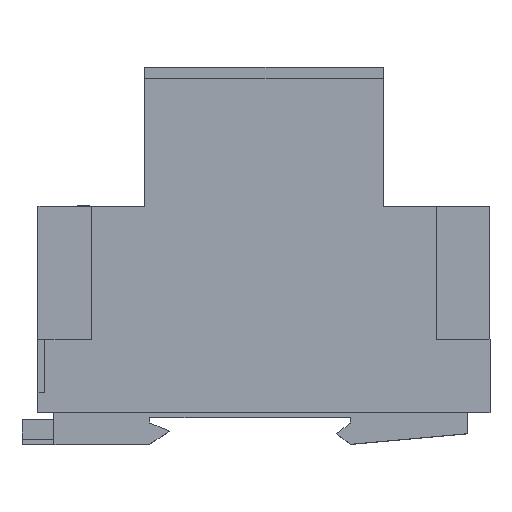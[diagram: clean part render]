
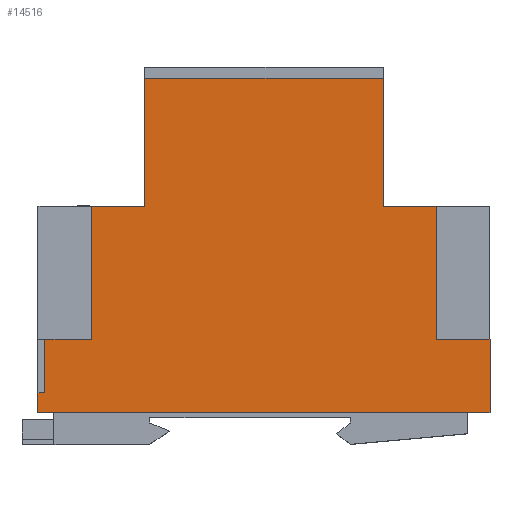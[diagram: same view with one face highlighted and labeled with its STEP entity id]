
A CAD part, top view. The second image highlights one B-rep face of the part: STEP entity #14516.
In plain terms, the highlighted planar face has unit normal (0, 0, 1).
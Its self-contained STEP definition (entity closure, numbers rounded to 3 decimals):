
#190 = LINE ( 'NONE', #1544, #5744 ) ;
#219 = LINE ( 'NONE', #12148, #1939 ) ;
#415 = EDGE_CURVE ( 'NONE', #4965, #15979, #2496, .T. ) ;
#464 = LINE ( 'NONE', #11138, #8203 ) ;
#804 = DIRECTION ( 'NONE',  ( 1., 0., 0. ) ) ;
#856 = VERTEX_POINT ( 'NONE', #16552 ) ;
#1458 = EDGE_CURVE ( 'NONE', #13468, #8299, #14471, .T. ) ;
#1467 = LINE ( 'NONE', #13619, #5327 ) ;
#1544 = CARTESIAN_POINT ( 'NONE',  ( -74.8, 0., 1.3 ) ) ;
#1939 = VECTOR ( 'NONE', #13704, 1000. ) ;
#1964 = CARTESIAN_POINT ( 'NONE',  ( 0., 0., 1.3 ) ) ;
#2017 = DIRECTION ( 'NONE',  ( 0., -1., 0. ) ) ;
#2154 = VECTOR ( 'NONE', #10862, 1000. ) ;
#2415 = ORIENTED_EDGE ( 'NONE', *, *, #9540, .F. ) ;
#2496 = LINE ( 'NONE', #8525, #14246 ) ;
#2747 = CARTESIAN_POINT ( 'NONE',  ( 0., 13.7, 1.3 ) ) ;
#2785 = CARTESIAN_POINT ( 'NONE',  ( -83.5, 3.7, 1.3 ) ) ;
#2803 = CARTESIAN_POINT ( 'NONE',  ( -20., 62.7, 1.3 ) ) ;
#2935 = DIRECTION ( 'NONE',  ( 0., -1., 0. ) ) ;
#3608 = ORIENTED_EDGE ( 'NONE', *, *, #9903, .F. ) ;
#3716 = VERTEX_POINT ( 'NONE', #13383 ) ;
#3814 = EDGE_CURVE ( 'NONE', #5274, #5211, #16812, .T. ) ;
#4029 = CARTESIAN_POINT ( 'NONE',  ( 0., 13.7, 1.3 ) ) ;
#4134 = ORIENTED_EDGE ( 'NONE', *, *, #5310, .F. ) ;
#4484 = ORIENTED_EDGE ( 'NONE', *, *, #10812, .F. ) ;
#4639 = VECTOR ( 'NONE', #15023, 1000. ) ;
#4965 = VERTEX_POINT ( 'NONE', #14617 ) ;
#4991 = VERTEX_POINT ( 'NONE', #5231 ) ;
#5124 = FACE_OUTER_BOUND ( 'NONE', #8074, .T. ) ;
#5211 = VERTEX_POINT ( 'NONE', #10495 ) ;
#5231 = CARTESIAN_POINT ( 'NONE',  ( -74.8, 13.7, 1.3 ) ) ;
#5274 = VERTEX_POINT ( 'NONE', #12182 ) ;
#5310 = EDGE_CURVE ( 'NONE', #11468, #4991, #10742, .T. ) ;
#5327 = VECTOR ( 'NONE', #9433, 1000. ) ;
#5328 = VERTEX_POINT ( 'NONE', #4029 ) ;
#5333 = ORIENTED_EDGE ( 'NONE', *, *, #17602, .F. ) ;
#5645 = LINE ( 'NONE', #1964, #11447 ) ;
#5713 = ORIENTED_EDGE ( 'NONE', *, *, #1458, .F. ) ;
#5744 = VECTOR ( 'NONE', #8260, 1000. ) ;
#6003 = CARTESIAN_POINT ( 'NONE',  ( 0., 0., 1.3 ) ) ;
#6211 = LINE ( 'NONE', #8846, #11165 ) ;
#6636 = VECTOR ( 'NONE', #9201, 1000. ) ;
#6776 = VECTOR ( 'NONE', #804, 1000. ) ;
#6852 = LINE ( 'NONE', #17420, #6636 ) ;
#7214 = VECTOR ( 'NONE', #10620, 1000. ) ;
#7438 = DIRECTION ( 'NONE',  ( 0., 1., 0. ) ) ;
#7564 = VERTEX_POINT ( 'NONE', #13826 ) ;
#7685 = ORIENTED_EDGE ( 'NONE', *, *, #8794, .F. ) ;
#8074 = EDGE_LOOP ( 'NONE', ( #10560, #14521, #9393, #4484, #2415, #10476, #3608, #5713, #5333, #11191, #11044, #7685, #4134, #13046 ) ) ;
#8203 = VECTOR ( 'NONE', #2935, 1000. ) ;
#8260 = DIRECTION ( 'NONE',  ( 0., 1., 0. ) ) ;
#8299 = VERTEX_POINT ( 'NONE', #9434 ) ;
#8525 = CARTESIAN_POINT ( 'NONE',  ( -64.8, 0., 1.3 ) ) ;
#8769 = DIRECTION ( 'NONE',  ( 0., 0., 1. ) ) ;
#8794 = EDGE_CURVE ( 'NONE', #4991, #856, #190, .T. ) ;
#8846 = CARTESIAN_POINT ( 'NONE',  ( 0., 38.7, 1.3 ) ) ;
#8908 = CARTESIAN_POINT ( 'NONE',  ( -64.8, 62.7, 1.3 ) ) ;
#9053 = VECTOR ( 'NONE', #17079, 1000. ) ;
#9121 = CARTESIAN_POINT ( 'NONE',  ( 0., 38.7, 1.3 ) ) ;
#9201 = DIRECTION ( 'NONE',  ( 0., 1., 0. ) ) ;
#9393 = ORIENTED_EDGE ( 'NONE', *, *, #13474, .F. ) ;
#9433 = DIRECTION ( 'NONE',  ( 1., 0., 0. ) ) ;
#9434 = CARTESIAN_POINT ( 'NONE',  ( -20., 38.7, 1.3 ) ) ;
#9540 = EDGE_CURVE ( 'NONE', #7564, #5328, #12367, .T. ) ;
#9903 = EDGE_CURVE ( 'NONE', #8299, #3716, #13829, .T. ) ;
#9919 = LINE ( 'NONE', #10230, #9053 ) ;
#10230 = CARTESIAN_POINT ( 'NONE',  ( -83.5, 3.7, 1.3 ) ) ;
#10476 = ORIENTED_EDGE ( 'NONE', *, *, #15323, .F. ) ;
#10495 = CARTESIAN_POINT ( 'NONE',  ( -84.8, 3.7, 1.3 ) ) ;
#10560 = ORIENTED_EDGE ( 'NONE', *, *, #3814, .T. ) ;
#10620 = DIRECTION ( 'NONE',  ( 0., -1., 0. ) ) ;
#10742 = LINE ( 'NONE', #17457, #2154 ) ;
#10812 = EDGE_CURVE ( 'NONE', #5328, #16497, #5645, .T. ) ;
#10862 = DIRECTION ( 'NONE',  ( 1., 0., 0. ) ) ;
#11044 = ORIENTED_EDGE ( 'NONE', *, *, #16805, .F. ) ;
#11138 = CARTESIAN_POINT ( 'NONE',  ( -10., 0., 1.3 ) ) ;
#11165 = VECTOR ( 'NONE', #14275, 1000. ) ;
#11191 = ORIENTED_EDGE ( 'NONE', *, *, #415, .F. ) ;
#11209 = EDGE_CURVE ( 'NONE', #5274, #11468, #9919, .T. ) ;
#11281 = DIRECTION ( 'NONE',  ( -1., 0., 0. ) ) ;
#11447 = VECTOR ( 'NONE', #2017, 1000. ) ;
#11468 = VERTEX_POINT ( 'NONE', #14145 ) ;
#11743 = CARTESIAN_POINT ( 'NONE',  ( -84.8, 0., 1.3 ) ) ;
#11749 = AXIS2_PLACEMENT_3D ( 'NONE', #6003, #8769, #12914 ) ;
#12148 = CARTESIAN_POINT ( 'NONE',  ( 0., 0., 1.3 ) ) ;
#12182 = CARTESIAN_POINT ( 'NONE',  ( -83.5, 3.7, 1.3 ) ) ;
#12367 = LINE ( 'NONE', #2747, #4639 ) ;
#12914 = DIRECTION ( 'NONE',  ( 1., 0., 0. ) ) ;
#13046 = ORIENTED_EDGE ( 'NONE', *, *, #11209, .F. ) ;
#13160 = VECTOR ( 'NONE', #11281, 1000. ) ;
#13383 = CARTESIAN_POINT ( 'NONE',  ( -10., 38.7, 1.3 ) ) ;
#13428 = CARTESIAN_POINT ( 'NONE',  ( -20., 0., 1.3 ) ) ;
#13468 = VERTEX_POINT ( 'NONE', #2803 ) ;
#13474 = EDGE_CURVE ( 'NONE', #16497, #15996, #219, .T. ) ;
#13619 = CARTESIAN_POINT ( 'NONE',  ( 0., 62.7, 1.3 ) ) ;
#13704 = DIRECTION ( 'NONE',  ( -1., 0., 0. ) ) ;
#13826 = CARTESIAN_POINT ( 'NONE',  ( -10., 13.7, 1.3 ) ) ;
#13829 = LINE ( 'NONE', #9121, #6776 ) ;
#14134 = EDGE_CURVE ( 'NONE', #15996, #5211, #6852, .T. ) ;
#14145 = CARTESIAN_POINT ( 'NONE',  ( -83.5, 13.7, 1.3 ) ) ;
#14246 = VECTOR ( 'NONE', #7438, 1000. ) ;
#14275 = DIRECTION ( 'NONE',  ( 1., 0., 0. ) ) ;
#14471 = LINE ( 'NONE', #13428, #7214 ) ;
#14516 = ADVANCED_FACE ( 'NONE', ( #5124 ), #17038, .T. ) ;
#14521 = ORIENTED_EDGE ( 'NONE', *, *, #14134, .F. ) ;
#14617 = CARTESIAN_POINT ( 'NONE',  ( -64.8, 38.7, 1.3 ) ) ;
#15023 = DIRECTION ( 'NONE',  ( 1., 0., 0. ) ) ;
#15323 = EDGE_CURVE ( 'NONE', #3716, #7564, #464, .T. ) ;
#15756 = CARTESIAN_POINT ( 'NONE',  ( 0., 0., 1.3 ) ) ;
#15979 = VERTEX_POINT ( 'NONE', #8908 ) ;
#15996 = VERTEX_POINT ( 'NONE', #11743 ) ;
#16497 = VERTEX_POINT ( 'NONE', #15756 ) ;
#16552 = CARTESIAN_POINT ( 'NONE',  ( -74.8, 38.7, 1.3 ) ) ;
#16805 = EDGE_CURVE ( 'NONE', #856, #4965, #6211, .T. ) ;
#16812 = LINE ( 'NONE', #2785, #13160 ) ;
#17038 = PLANE ( 'NONE',  #11749 ) ;
#17079 = DIRECTION ( 'NONE',  ( 0., 1., 0. ) ) ;
#17420 = CARTESIAN_POINT ( 'NONE',  ( -84.8, 0., 1.3 ) ) ;
#17457 = CARTESIAN_POINT ( 'NONE',  ( 0., 13.7, 1.3 ) ) ;
#17602 = EDGE_CURVE ( 'NONE', #15979, #13468, #1467, .T. ) ;
